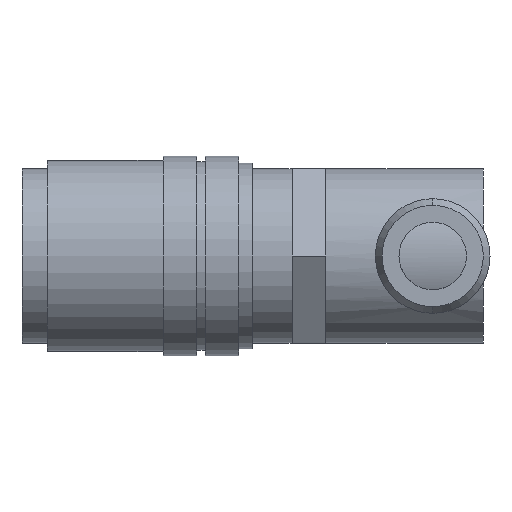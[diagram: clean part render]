
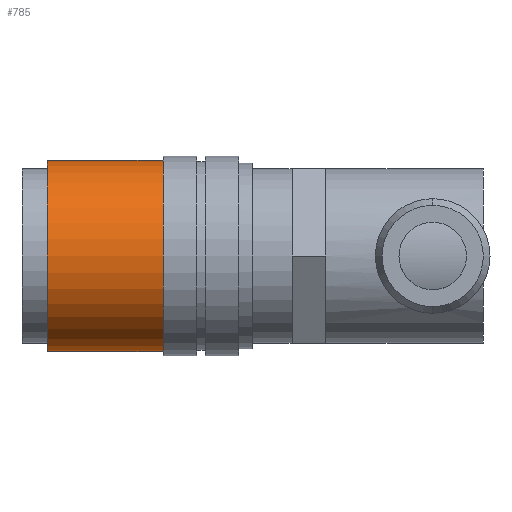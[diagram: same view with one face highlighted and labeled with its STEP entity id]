
A CAD part, front view. The second image highlights one B-rep face of the part: STEP entity #785.
In plain terms, the highlighted cylindrical face has radius 8.5 mm (diameter 17 mm), a partial arc.
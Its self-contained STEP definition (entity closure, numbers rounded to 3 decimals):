
#63 = VECTOR ( 'NONE', #1213, 1000. ) ;
#118 = CARTESIAN_POINT ( 'NONE',  ( 2.261, 0., -8.5 ) ) ;
#159 = AXIS2_PLACEMENT_3D ( 'NONE', #963, #1053, #1046 ) ;
#195 = LINE ( 'NONE', #1460, #1437 ) ;
#297 = CARTESIAN_POINT ( 'NONE',  ( 2.261, 0., 0. ) ) ;
#323 = ORIENTED_EDGE ( 'NONE', *, *, #1211, .F. ) ;
#374 = CARTESIAN_POINT ( 'NONE',  ( 12.546, 0., -8.5 ) ) ;
#418 = CARTESIAN_POINT ( 'NONE',  ( 12.546, 0., 8.5 ) ) ;
#443 = FACE_OUTER_BOUND ( 'NONE', #599, .T. ) ;
#504 = EDGE_CURVE ( 'NONE', #1466, #1489, #1384, .T. ) ;
#511 = EDGE_CURVE ( 'NONE', #1095, #1489, #999, .T. ) ;
#599 = EDGE_LOOP ( 'NONE', ( #323, #1523, #1200, #822 ) ) ;
#637 = AXIS2_PLACEMENT_3D ( 'NONE', #1049, #1044, #1055 ) ;
#684 = CYLINDRICAL_SURFACE ( 'NONE', #637, 8.5 ) ;
#785 = ADVANCED_FACE ( 'NONE', ( #443 ), #684, .T. ) ;
#822 = ORIENTED_EDGE ( 'NONE', *, *, #504, .F. ) ;
#899 = CIRCLE ( 'NONE', #159, 8.5 ) ;
#963 = CARTESIAN_POINT ( 'NONE',  ( 12.546, 0., 0. ) ) ;
#999 = LINE ( 'NONE', #1363, #63 ) ;
#1044 = DIRECTION ( 'NONE',  ( -1., 0., 0. ) ) ;
#1046 = DIRECTION ( 'NONE',  ( 0., 0., 1. ) ) ;
#1049 = CARTESIAN_POINT ( 'NONE',  ( 0., 0., 0. ) ) ;
#1053 = DIRECTION ( 'NONE',  ( -1., 0., 0. ) ) ;
#1055 = DIRECTION ( 'NONE',  ( 0., 0., 1. ) ) ;
#1064 = CARTESIAN_POINT ( 'NONE',  ( 2.261, 0., 8.5 ) ) ;
#1095 = VERTEX_POINT ( 'NONE', #418 ) ;
#1167 = AXIS2_PLACEMENT_3D ( 'NONE', #297, #1500, #1512 ) ;
#1200 = ORIENTED_EDGE ( 'NONE', *, *, #511, .T. ) ;
#1211 = EDGE_CURVE ( 'NONE', #1313, #1466, #195, .T. ) ;
#1213 = DIRECTION ( 'NONE',  ( -1., 0., 0. ) ) ;
#1313 = VERTEX_POINT ( 'NONE', #374 ) ;
#1337 = DIRECTION ( 'NONE',  ( -1., 0., 0. ) ) ;
#1363 = CARTESIAN_POINT ( 'NONE',  ( 0., 0., 8.5 ) ) ;
#1384 = CIRCLE ( 'NONE', #1167, 8.5 ) ;
#1388 = EDGE_CURVE ( 'NONE', #1313, #1095, #899, .T. ) ;
#1437 = VECTOR ( 'NONE', #1337, 1000. ) ;
#1460 = CARTESIAN_POINT ( 'NONE',  ( 0., 0., -8.5 ) ) ;
#1466 = VERTEX_POINT ( 'NONE', #118 ) ;
#1489 = VERTEX_POINT ( 'NONE', #1064 ) ;
#1500 = DIRECTION ( 'NONE',  ( -1., 0., 0. ) ) ;
#1512 = DIRECTION ( 'NONE',  ( 0., 0., 1. ) ) ;
#1523 = ORIENTED_EDGE ( 'NONE', *, *, #1388, .T. ) ;
